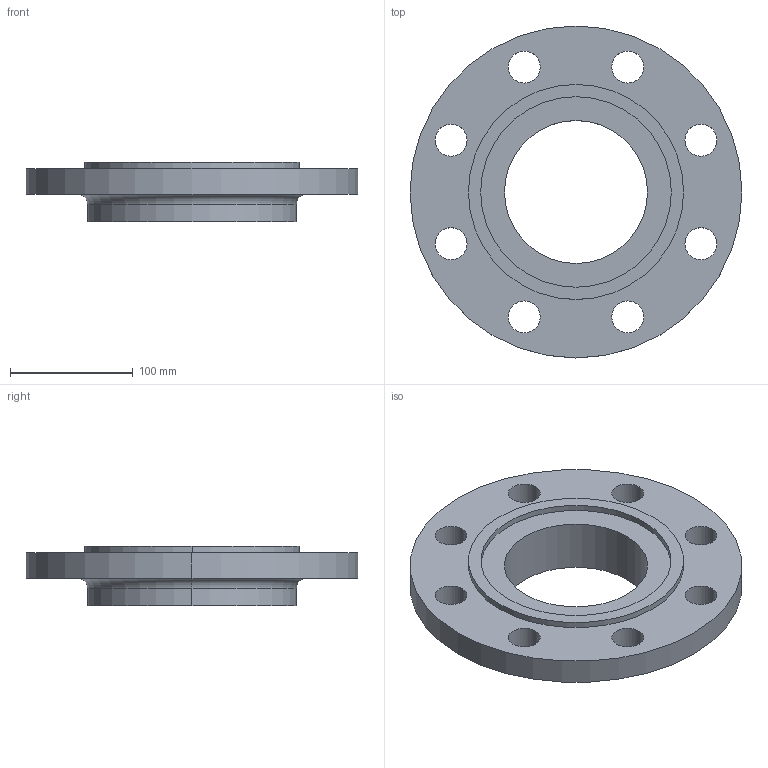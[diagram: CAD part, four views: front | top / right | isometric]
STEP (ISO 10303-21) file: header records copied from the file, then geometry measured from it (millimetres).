
FILE_DESCRIPTION (( 'STEP AP214' ), '1' );
FILE_NAME ('PN40 DN125 Type 13 - Type C Face.STEP', '2019-01-02T02:09:18', ( '' ), ( '' ), 'SwSTEP 2.0', 'SolidWorks 2019', '' );
FILE_SCHEMA (( 'AUTOMOTIVE_DESIGN' ));
Length unit declared in the file: millimetre
Products named in the file (1): PN40 DN125 Type 13 - Type C Face
Bounding box: 270 x 270 x 48 mm (x, y, z)
Volume: 1188828.1 mm3; surface area: 147134.8 mm2
Topology: 1 solids, 1 shells, 33 faces, 82 edges, 54 vertices
Faces by surface type: cylinder 26, plane 5, torus 2
Entity records: 1086 total; most frequent: DIRECTION 206, CARTESIAN_POINT 170, ORIENTED_EDGE 164, AXIS2_PLACEMENT_3D 90, EDGE_CURVE 82, CIRCLE 56, VERTEX_POINT 54, EDGE_LOOP 54
